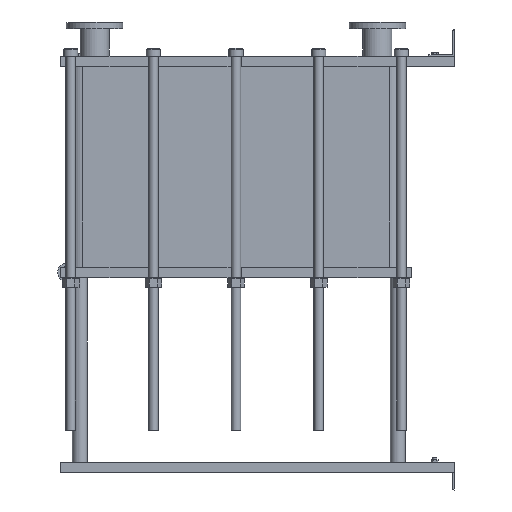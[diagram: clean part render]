
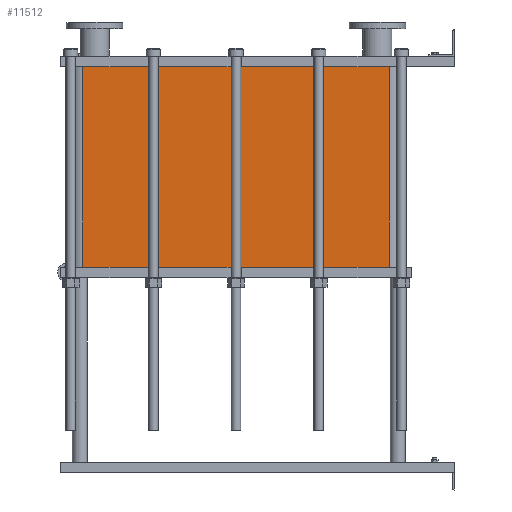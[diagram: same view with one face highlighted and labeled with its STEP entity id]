
A CAD part, left-side view. The second image highlights one B-rep face of the part: STEP entity #11512.
In plain terms, the highlighted planar face has unit normal (-1, 0, 0).
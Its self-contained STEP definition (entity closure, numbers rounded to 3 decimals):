
#1129=LINE('',#23232,#2102);
#1130=LINE('',#23236,#2103);
#1131=LINE('',#23238,#2104);
#1132=LINE('',#23239,#2105);
#2102=VECTOR('',#15887,10.);
#2103=VECTOR('',#15892,10.);
#2104=VECTOR('',#15893,10.);
#2105=VECTOR('',#15894,10.);
#3267=FACE_OUTER_BOUND('',#4093,.T.);
#4093=EDGE_LOOP('',(#10103,#10104,#10105,#10106));
#5642=VERTEX_POINT('',#23229);
#5643=VERTEX_POINT('',#23231);
#5644=VERTEX_POINT('',#23235);
#5645=VERTEX_POINT('',#23237);
#7159=EDGE_CURVE('',#5643,#5642,#1129,.T.);
#7161=EDGE_CURVE('',#5642,#5644,#1130,.T.);
#7162=EDGE_CURVE('',#5645,#5644,#1131,.T.);
#7163=EDGE_CURVE('',#5645,#5643,#1132,.T.);
#10103=ORIENTED_EDGE('',*,*,#7161,.T.);
#10104=ORIENTED_EDGE('',*,*,#7162,.F.);
#10105=ORIENTED_EDGE('',*,*,#7163,.T.);
#10106=ORIENTED_EDGE('',*,*,#7159,.T.);
#10857=PLANE('',#12751);
#11512=ADVANCED_FACE('',(#3267),#10857,.T.);
#12751=AXIS2_PLACEMENT_3D('',#23234,#15890,#15891);
#15887=DIRECTION('',(0.,0.,-1.));
#15890=DIRECTION('center_axis',(-1.,0.,0.));
#15891=DIRECTION('ref_axis',(0.,1.,0.));
#15892=DIRECTION('',(0.,-1.,0.));
#15893=DIRECTION('',(0.,0.,-1.));
#15894=DIRECTION('',(0.,1.,0.));
#23229=CARTESIAN_POINT('',(-200.,1414.,-762.45));
#23231=CARTESIAN_POINT('',(-200.,1414.,0.));
#23232=CARTESIAN_POINT('',(-200.,1414.,0.));
#23234=CARTESIAN_POINT('Origin',(-200.,248.,0.));
#23235=CARTESIAN_POINT('',(-200.,248.,-762.45));
#23236=CARTESIAN_POINT('',(-200.,539.5,-762.45));
#23237=CARTESIAN_POINT('',(-200.,248.,0.));
#23238=CARTESIAN_POINT('',(-200.,248.,0.));
#23239=CARTESIAN_POINT('',(-200.,248.,0.));
